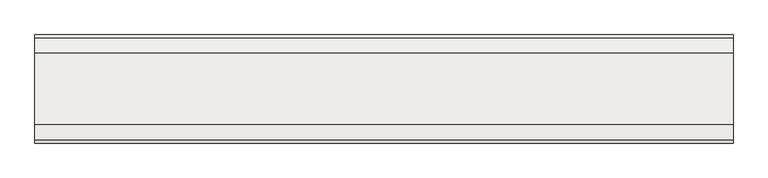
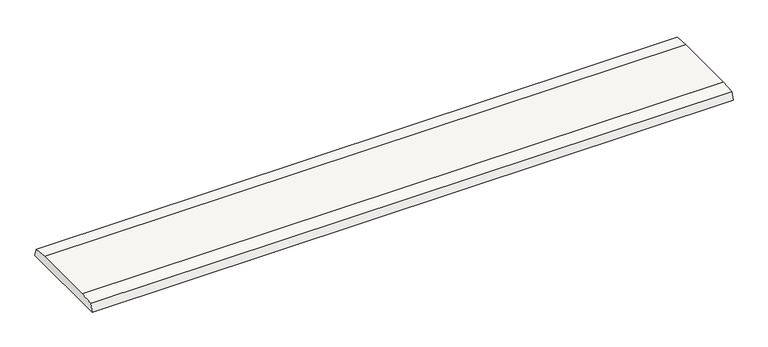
"""IFC4 building model written with IfcOpenShell, lengths in millimetres: slab geometry, ROSA GRES_245 FL_Colocación en plano : Rejilla 245 FL_Tresor_Java_Anti-Slip."""

from ifc_helpers import new_model, si_unit, point, frame, frame_2d, origin, place, context, project, spatial, polyline, circle_curve, trimmed, segment, composite_curve, outline, extrude, source, transform, mapped, element, save


def slab_d162e550(model_context):
    return source(origin(), model_context, "Body", "SweptSolid", [
        extrude(outline(composite_curve([segment(trimmed(circle_curve(frame_2d((-159.1366814, -720.2412375)), 721.556477), [point((-238.1232639, -3.0209998))], [point((-202.6833158, 0.0))], False, "CARTESIAN"), True, "CONTINUOUS"), segment(polyline([(-202.6833158, 0.0), (-42.7380732, 0.0)]), True, "CONTINUOUS"), segment(trimmed(circle_curve(frame_2d((-86.2847076, -720.2412375)), 721.556477), [point((-42.7380732, 0.0))], [point((-6.8503894, -3.0704499))], False, "CARTESIAN"), True, "CONTINUOUS"), segment(polyline([(-6.8503894, -3.0704499), (-0.9482737, -22.0), (-244.0502169, -22.0), (-238.1232639, -3.0209998)]), True, "CONTINUOUS")], self_intersect=False)), frame((0.0, 0.0, 0.0), z_axis=(1.0, 0.0, 0.0), x_axis=(0.0, 1.0, 0.0)), (0.0, 0.0, 1.0), 1570.0),
    ])


if __name__ == "__main__":
    model = new_model("IFC4")
    model_context = context("Model", 3, world=origin())
    ifc_project = project(units=[si_unit("LENGTHUNIT", "METRE", prefix="MILLI")], contexts=[model_context])
    site = spatial("IfcSite", under=ifc_project)
    building = spatial("IfcBuilding", under=site)
    placement = place(None, origin())
    slab_shape = slab_d162e550(model_context)
    element("IfcSlab", 1, ObjectType="ROSA GRES_245 FL_Colocación en plano : Rejilla 245 FL_Tresor_Java_Anti-Slip", at=placement, inside=building, context=model_context, shape_type="MappedRepresentation", body=[
        mapped(slab_shape, transform((0.0, 0.0, 0.0), x_axis=(1.0, 0.0, 0.0), y_axis=(0.0, 1.0, 0.0), z_axis=(0.0, 0.0, 1.0))),
    ])
    save(model, "model.ifc")
